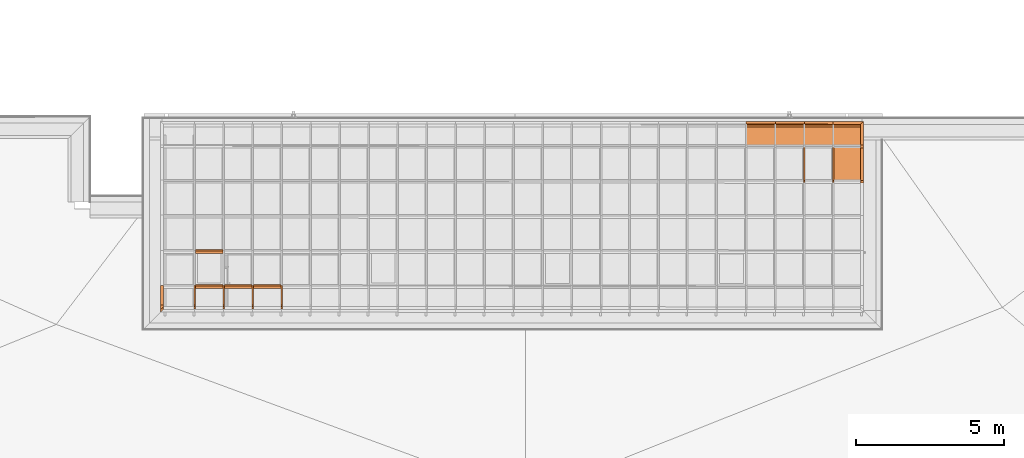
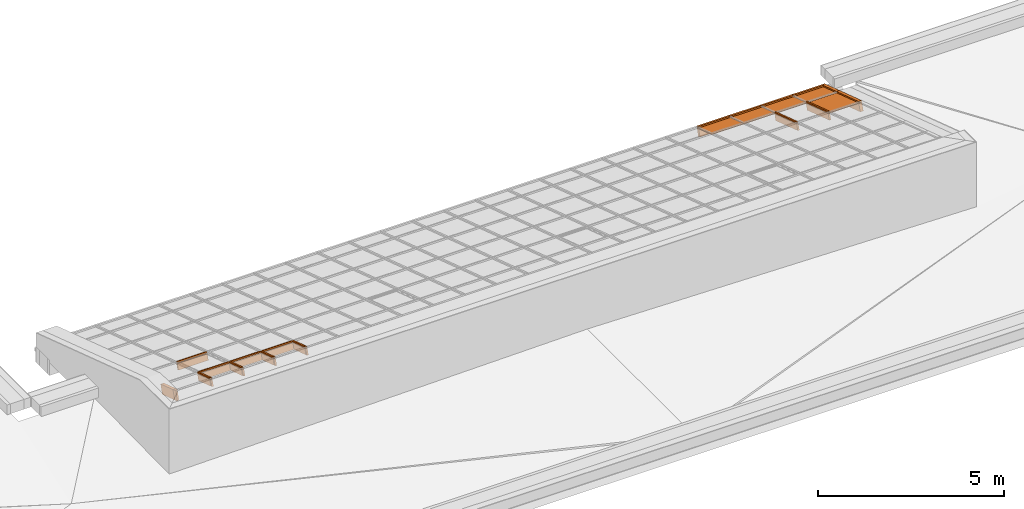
# One storey, part 40 of 47: 27 proxies, 1 element without a shape of its own.
"""IFC2X3 building model written with IfcOpenShell, lengths in millimetres."""

from ifc_helpers import new_model, entity, si_unit, converted_unit, derived_unit, money_unit, direction, frame, origin_with_axes, place, context, subcontext, project, spatial, polyline, outline, extrude, clip, halfspace, material, material_list, type_object, element, aggregate, save


model = new_model("IFC2X3")

# Units and contexts
model_context = context("Model", 3, precision=1e-05, world=origin_with_axes(), true_north=direction((0.0, 1.0)))
body_context = subcontext(model_context, "Body", "Model", "MODEL_VIEW")
ifc_project = project(units=[si_unit("LENGTHUNIT", "METRE", prefix="MILLI"), si_unit("AREAUNIT", "SQUARE_METRE"), si_unit("VOLUMEUNIT", "CUBIC_METRE"), converted_unit("PLANEANGLEUNIT", "DEGREE", entity("IfcPlaneAngleMeasure", 0.0174532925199), si_unit("PLANEANGLEUNIT", "RADIAN"), dimensions=[0, 0, 0, 0, 0, 0, 0]), si_unit("SOLIDANGLEUNIT", "STERADIAN"), money_unit("EUR"), converted_unit("TIMEUNIT", "Year", entity("IfcTimeMeasure", 31556926.0), si_unit("TIMEUNIT", "SECOND"), dimensions=[0, 0, 1, 0, 0, 0, 0]), si_unit("MASSUNIT", "GRAM", prefix="KILO"), si_unit("THERMODYNAMICTEMPERATUREUNIT", "DEGREE_CELSIUS"), si_unit("LUMINOUSINTENSITYUNIT", "LUMEN"), si_unit("ENERGYUNIT", "JOULE", prefix="MEGA"), derived_unit("THERMALCONDUCTANCEUNIT", [(si_unit("POWERUNIT", "WATT"), 1), (si_unit("LENGTHUNIT", "METRE"), -1), (si_unit("THERMODYNAMICTEMPERATUREUNIT", "KELVIN"), -1)]), derived_unit("SPECIFICHEATCAPACITYUNIT", [(si_unit("ENERGYUNIT", "JOULE"), 1), (si_unit("MASSUNIT", "GRAM", prefix="KILO"), -1), (si_unit("THERMODYNAMICTEMPERATUREUNIT", "KELVIN"), -1)]), derived_unit("MASSDENSITYUNIT", [(si_unit("MASSUNIT", "GRAM", prefix="KILO"), 1), (si_unit("VOLUMEUNIT", "CUBIC_METRE"), -1)])], contexts=[model_context])

# Site, building, storey
site_placement = place(None, origin_with_axes())
site = spatial("IfcSite", under=ifc_project, at=site_placement, Name="Site", CompositionType="ELEMENT")
building_placement = place(site_placement, origin_with_axes())
building = spatial("IfcBuilding", under=site, at=building_placement, Name="Building", CompositionType="ELEMENT")
storey_placement = place(building_placement, frame((0.0, 0.0, 6000.0), z_axis=(0.0, 0.0, 1.0), x_axis=(1.0, 0.0, 0.0)))
storey = spatial("IfcBuildingStorey", under=building, at=storey_placement, Name="KATUSEPLAAN", CompositionType="ELEMENT", Elevation=6000.0)

# Curtain wall, proxies
curtain_wall_type = type_object("IfcCurtainWallType", Name="KK-2", PredefinedType="NOTDEFINED")
curtain_wall_placement = place(storey_placement, frame((71638.1505463, 41358.6055567, 722.550081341), z_axis=(0.0, 0.0, 1.0), x_axis=(1.0, 0.0, 0.0)))
curtain_wall = element("IfcCurtainWall", 1, at=curtain_wall_placement, inside=storey, type_object=curtain_wall_type, Name="Talveaja klaaskatus")
ifc_material_1 = material(Name="Klaas")
building_element_proxy_type_1 = type_object("IfcBuildingElementProxyType", Name="Panel-Main-122", PredefinedType="NOTDEFINED")
proxy_1_placement = place(curtain_wall_placement, frame((14729.9937576, 5600.0494597, 125.33263095), z_axis=(0.0, 0.0, 1.0), x_axis=(-0.999995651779, 0.00294896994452, 0.0)))
proxy_1 = element("IfcBuildingElementProxy", 2, at=proxy_1_placement, type_object=building_element_proxy_type_1, material=ifc_material_1, Name="Klaas;  Objekti nimi: Built-in CW Panel", context=body_context, shape_type="SweptSolid", body=[
    extrude(outline(polyline([(486.870814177, -403.735102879), (486.884818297, -398.735116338), (491.884804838, -398.749135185), (494.111327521, 395.986769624), (489.111340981, 396.000773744), (489.055309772, 376.000857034), (-486.940849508, 378.735194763), (-486.884833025, 398.735126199), (-491.884804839, 398.749130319), (-494.111327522, -395.986774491), (-489.111340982, -396.000778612), (-489.125345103, -401.000765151), (486.870814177, -403.735102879)])), frame((0.0, -3.12191252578, 9.50019274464), z_axis=(0.0, 0.312191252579, -0.950019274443), x_axis=(1.0, 0.0, 0.0)), (0.0, 0.0, 1.0), 20.0000000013),
])
building_element_proxy_type_2 = type_object("IfcBuildingElementProxyType", Name="Panel-Main-115", PredefinedType="NOTDEFINED")
proxy_2_placement = place(curtain_wall_placement, frame((15704.4933446, 4628.4982206, 443.653871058), z_axis=(0.0, 0.0, 1.0), x_axis=(-0.999995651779, 0.0029489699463, 0.0)))
proxy_2 = element("IfcBuildingElementProxy", 3, at=proxy_2_placement, type_object=building_element_proxy_type_2, material=ifc_material_1, Name="Klaas;  Objekti nimi: Built-in CW Panel", context=body_context, shape_type="SweptSolid", body=[
    extrude(outline(polyline([(484.733112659, -631.360496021), (484.747111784, -626.360513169), (489.747075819, -626.37453111), (493.249058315, 623.62057977), (488.249094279, 623.634578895), (488.263093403, 628.634561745), (-484.733080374, 631.360496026), (-484.747098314, 626.360513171), (-464.747166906, 626.304479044), (-468.249130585, -623.690613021), (-488.249061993, -623.634578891), (-488.263079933, -628.634561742), (484.733112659, -631.360496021)])), frame((0.0, -3.12191252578, 9.50019274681), z_axis=(0.0, 0.312191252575, -0.950019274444), x_axis=(1.0, 0.0, 0.0)), (0.0, 0.0, 1.0), 20.0000000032),
])
building_element_proxy_type_3 = type_object("IfcBuildingElementProxyType", Name="Panel-Main-080", PredefinedType="NOTDEFINED")
proxy_3_placement = place(curtain_wall_placement, frame((15704.4933446, 5599.76937335, 124.480305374), z_axis=(0.0, 0.0, 1.0), x_axis=(-0.999995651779, 0.00294896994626, 0.0)))
proxy_3 = element("IfcBuildingElementProxy", 4, at=proxy_3_placement, type_object=building_element_proxy_type_3, material=ifc_material_1, Name="Klaas;  Objekti nimi: Built-in CW Panel", context=body_context, shape_type="SweptSolid", body=[
    extrude(outline(polyline([(485.370817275, -403.730903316), (485.38482508, -398.730920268), (490.384808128, -398.744928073), (492.611333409, 395.990975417), (487.611350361, 396.004983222), (487.555319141, 376.005065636), (-465.44092687, 378.67496205), (-467.611435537, -396.061009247), (-487.611353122, -396.004978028), (-487.625360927, -401.004975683), (485.370817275, -403.730903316)])), frame((0.0, -3.12191252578, 9.50019274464), z_axis=(0.0, 0.312191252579, -0.950019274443), x_axis=(1.0, 0.0, 0.0)), (0.0, 0.0, 1.0), 20.0000000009),
])
building_element_proxy_type_4 = type_object("IfcBuildingElementProxyType", Name="Panel-Main-147", PredefinedType="NOTDEFINED")
proxy_4_placement = place(curtain_wall_placement, frame((12769.4945884, 5600.61293768, 127.047340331), z_axis=(0.0, 0.0, 1.0), x_axis=(-0.999995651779, 0.00294896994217, 0.0)))
proxy_4 = element("IfcBuildingElementProxy", 5, at=proxy_4_placement, type_object=building_element_proxy_type_4, material=ifc_material_1, Name="Klaas;  Objekti nimi: Built-in CW Panel", context=body_context, shape_type="SweptSolid", body=[
    extrude(outline(polyline([(495.370776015, -403.758920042), (495.384796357, -398.758930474), (500.384770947, -398.772950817), (502.611294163, 395.962958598), (497.611319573, 395.976963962), (497.555283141, 375.977050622), (-495.440832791, 378.758995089), (-495.384796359, 398.758938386), (-500.38475597, 398.772943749), (-502.611294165, -395.962965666), (-497.611304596, -395.976971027), (-497.625324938, -400.976960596), (495.370776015, -403.758920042)])), frame((1.70530256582e-10, -3.1219125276, 9.50019274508), z_axis=(0.0, 0.312191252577, -0.950019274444), x_axis=(1.0, 0.0, 0.0)), (0.0, 0.0, 1.0), 20.0000000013),
])
building_element_proxy_type_5 = type_object("IfcBuildingElementProxyType", Name="Panel-Main-079", PredefinedType="NOTDEFINED")
proxy_5_placement = place(curtain_wall_placement, frame((13753.9941712, 5600.32997718, 126.186268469), z_axis=(0.0, 0.0, 1.0), x_axis=(-0.999995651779, 0.002948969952, 0.0)))
proxy_5 = element("IfcBuildingElementProxy", 6, at=proxy_5_placement, type_object=building_element_proxy_type_5, material=ifc_material_1, Name="Klaas;  Objekti nimi: Built-in CW Panel", context=body_context, shape_type="SweptSolid", body=[
    extrude(outline(polyline([(486.87081418, -403.735102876), (486.884818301, -398.735116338), (491.884804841, -398.749135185), (494.111327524, 395.986769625), (489.111340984, 396.000773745), (489.055309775, 376.000857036), (-486.940849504, 378.735194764), (-486.884833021, 398.735126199), (-491.884804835, 398.74913032), (-494.111327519, -395.986774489), (-489.111340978, -396.000778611), (-489.125345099, -401.000765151), (486.87081418, -403.735102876)])), frame((0.0, -3.12191252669, 9.50019274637), z_axis=(0.0, 0.312191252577, -0.950019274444), x_axis=(1.0, 0.0, 0.0)), (0.0, 0.0, 1.0), 20.0000000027),
])
ifc_material_2 = material(Name="Alumiinium (1)")
building_element_proxy_type_6 = type_object("IfcBuildingElementProxyType", Name="Frame-Bnd-632", PredefinedType="NOTDEFINED")
proxy_6_placement = place(curtain_wall_placement, frame((15217.9935507, 5977.41805556, 0.851013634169), z_axis=(0.999999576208, -0.000287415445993, -0.000874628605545), x_axis=(0.0, -0.950019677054, 0.312190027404)))
proxy_6 = element("IfcBuildingElementProxy", 7, at=proxy_6_placement, type_object=building_element_proxy_type_6, material=ifc_material_2, Name="Alumiinium (1);  Objekti nimi: Built-in Frame", context=body_context, shape_type="Clipping", body=[
    clip(extrude(outline(polyline([(22.1222942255, 3.25639344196), (50.6228833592, -6.10931096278), (125.548518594, 221.895402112), (30.5465548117, 253.114416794), (-63.1104892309, -31.8914745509), (31.8914745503, -63.1104892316), (44.379080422, -25.1097037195), (15.8784912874, -15.7439993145), (22.1222942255, 3.25639344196)])), frame((0.0, 0.0, -1.13686837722e-10), z_axis=(0.0, 0.0, 1.0), x_axis=(0.950019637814, 0.312190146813, 0.0)), (0.0, 0.0, 1.0), 1023.0), halfspace(frame((486.5, 0.0, 486.499999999), z_axis=(-0.707106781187, 0.0, -0.707106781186), x_axis=(0.0, 1.0, 0.0)), True)),
])
ifc_material_list = material_list([ifc_material_2, ifc_material_2])
building_element_proxy_type_7 = type_object("IfcBuildingElementProxyType", Name="Frame-Mll-238", PredefinedType="NOTDEFINED")
proxy_7_placement = place(curtain_wall_placement, frame((14241.9939644, 5222.68086385, 249.814248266), z_axis=(0.0, -0.950019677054, 0.312190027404), x_axis=(-0.999999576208, 0.000287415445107, 0.000874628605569)))
proxy_7 = element("IfcBuildingElementProxy", 8, at=proxy_7_placement, type_object=building_element_proxy_type_7, material=ifc_material_list, Name="Alumiinium (1);  Objekti nimi: Frame 22", context=body_context, shape_type="SweptSolid", body=[
    extrude(outline(polyline([(25.0091958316, 9.97697969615), (25.1841179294, 199.976899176), (-24.8158608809, 200.022931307), (-24.9907829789, 10.0230118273), (25.0091958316, 9.97697969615)])), frame((0.0, 0.0, -9.09494701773e-10), z_axis=(0.0, 0.0, 1.0), x_axis=(0.999999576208, 0.000920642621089, 0.0)), (0.0, 0.0, 1.0), 1250.0),
    extrude(outline(polyline([(-25.0091958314, -9.9769796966), (-25.0460215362, -49.9769627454), (24.9539572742, -50.0229948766), (24.990782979, -10.0230118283), (-25.0091958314, -9.9769796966)])), frame((0.0, 0.0, -9.09494701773e-10), z_axis=(0.0, 0.0, 1.0), x_axis=(0.999999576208, 0.000920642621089, 0.0)), (0.0, 0.0, 1.0), 1250.0),
])
building_element_proxy_type_8 = type_object("IfcBuildingElementProxyType", Name="Frame-Bnd-634", PredefinedType="NOTDEFINED")
proxy_8_placement = place(curtain_wall_placement, frame((16190.9931384, 5222.12069114, 248.109597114), z_axis=(0.0, -0.950019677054, 0.312190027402), x_axis=(-0.999999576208, 0.000287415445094, 0.000874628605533)))
proxy_8 = element("IfcBuildingElementProxy", 9, at=proxy_8_placement, type_object=building_element_proxy_type_8, material=ifc_material_2, Name="Alumiinium (1);  Objekti nimi: Built-in Frame", context=body_context, shape_type="SweptSolid", body=[
    extrude(outline(polyline([(20.0091979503, 9.9815829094), (50.0091852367, 9.95396363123), (50.2301394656, 249.953861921), (-49.7698181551, 250.045926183), (-50.0460109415, -49.9539466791), (49.9539466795, -50.046010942), (49.9907723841, -10.0460278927), (19.990785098, -10.018408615), (20.0091979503, 9.9815829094)])), frame((0.0, -4.54747350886e-10, -9.09494701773e-10), z_axis=(0.0, 0.0, 1.0), x_axis=(0.999999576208, 0.000920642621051, 0.0)), (0.0, 0.0, 1.0), 1250.00000001),
])
building_element_proxy_type_9 = type_object("IfcBuildingElementProxyType", Name="Frame-Mll-239", PredefinedType="NOTDEFINED")
proxy_9_placement = place(curtain_wall_placement, frame((15217.9935507, 5222.40034637, 248.960610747), z_axis=(0.0, -0.950019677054, 0.312190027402), x_axis=(-0.999999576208, 0.000287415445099, 0.000874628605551)))
proxy_9 = element("IfcBuildingElementProxy", 10, at=proxy_9_placement, type_object=building_element_proxy_type_9, material=ifc_material_list, Name="Alumiinium (1);  Objekti nimi: Frame 22", context=body_context, shape_type="SweptSolid", body=[
    extrude(outline(polyline([(25.0091958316, 9.97697969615), (25.1841179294, 199.976899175), (-24.8158608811, 200.022931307), (-24.990782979, 10.0230118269), (25.0091958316, 9.97697969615)])), frame((0.0, 0.0, -9.09494701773e-10), z_axis=(0.0, 0.0, 1.0), x_axis=(0.999999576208, 0.00092064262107, 0.0)), (0.0, 0.0, 1.0), 1250.00000001),
    extrude(outline(polyline([(-25.0091958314, -9.97697969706), (-25.0460215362, -49.9769627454), (24.9539572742, -50.0229948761), (24.990782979, -10.0230118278), (-25.0091958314, -9.97697969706)])), frame((0.0, 0.0, -9.09494701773e-10), z_axis=(0.0, 0.0, 1.0), x_axis=(0.999999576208, 0.00092064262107, 0.0)), (0.0, 0.0, 1.0), 1250.00000001),
])
building_element_proxy_type_10 = type_object("IfcBuildingElementProxyType", Name="Frame-Trs-517", PredefinedType="NOTDEFINED")
proxy_10_placement = place(curtain_wall_placement, frame((-5398.99771195, 478.227605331, 1827.94296573), z_axis=(0.999999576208, -0.000287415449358, -0.000874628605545), x_axis=(0.0, -0.950019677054, 0.312190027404)))
proxy_10 = element("IfcBuildingElementProxy", 11, at=proxy_10_placement, type_object=building_element_proxy_type_10, material=ifc_material_list, Name="Alumiinium (1);  Objekti nimi: Frame 22", context=body_context, shape_type="SweptSolid", body=[
    extrude(outline(polyline([(26.8723924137, 1.69544270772), (86.1885203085, 182.199173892), (38.6875384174, 197.808681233), (-20.6285894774, 17.3049500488), (26.8723924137, 1.69544270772)])), frame((0.0, 4.54747350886e-10, 24.9999999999), z_axis=(0.0, 0.0, 1.0), x_axis=(0.950019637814, 0.312190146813, 0.0)), (0.0, 0.0, 1.0), 930.0),
    extrude(outline(polyline([(-26.8723924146, -1.69544270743), (-39.3599982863, -39.6962282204), (8.1409836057, -55.3057355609), (20.6285894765, -17.3049500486), (-26.8723924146, -1.69544270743)])), frame((0.0, 4.54747350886e-10, 24.9999999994), z_axis=(0.0, 0.0, 1.0), x_axis=(0.950019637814, 0.312190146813, 0.0)), (0.0, 0.0, 1.0), 930.000000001),
])
building_element_proxy_type_11 = type_object("IfcBuildingElementProxyType", Name="Frame-Mll-869", PredefinedType="NOTDEFINED")
proxy_11_placement = place(curtain_wall_placement, frame((-6378.99729663, 478.509272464, 1828.80010176), z_axis=(0.0, -0.950019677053, 0.312190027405), x_axis=(-0.999999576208, 0.000287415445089, 0.000874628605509)))
proxy_11 = element("IfcBuildingElementProxy", 12, at=proxy_11_placement, type_object=building_element_proxy_type_11, material=ifc_material_list, Name="Alumiinium (1);  Objekti nimi: Frame 22", context=body_context, shape_type="SweptSolid", body=[
    extrude(outline(polyline([(25.0091958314, 9.97697969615), (25.1841179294, 199.976899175), (-24.8158608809, 200.022931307), (-24.990782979, 10.0230118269), (25.0091958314, 9.97697969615)])), frame((0.0, 0.0, 0.0), z_axis=(0.0, 0.0, 1.0), x_axis=(0.999999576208, 0.000920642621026, 0.0)), (0.0, 0.0, 1.0), 700.000000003),
    extrude(outline(polyline([(-25.0091958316, -9.97697969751), (-25.0460215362, -49.9769627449), (24.9539572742, -50.0229948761), (24.990782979, -10.0230118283), (-25.0091958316, -9.97697969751)])), frame((0.0, 0.0, 0.0), z_axis=(0.0, 0.0, 1.0), x_axis=(0.999999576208, 0.000920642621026, 0.0)), (0.0, 0.0, 1.0), 700.000000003),
])
building_element_proxy_type_12 = type_object("IfcBuildingElementProxyType", Name="Frame-Bnd-631", PredefinedType="NOTDEFINED")
proxy_12_placement = place(curtain_wall_placement, frame((14241.9939644, 5977.69857303, 1.7046511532), z_axis=(0.999999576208, -0.000287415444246, -0.000874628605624), x_axis=(0.0, -0.950019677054, 0.312190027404)))
proxy_12 = element("IfcBuildingElementProxy", 13, at=proxy_12_placement, type_object=building_element_proxy_type_12, material=ifc_material_2, Name="Alumiinium (1);  Objekti nimi: Built-in Frame", context=body_context, shape_type="SweptSolid", body=[
    extrude(outline(polyline([(22.1222942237, 3.25639344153), (50.6228833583, -6.10931096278), (125.548518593, 221.895402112), (30.5465548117, 253.114416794), (-63.1104892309, -31.8914745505), (31.8914745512, -63.1104892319), (44.3790804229, -25.109703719), (15.8784912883, -15.7439993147), (22.1222942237, 3.25639344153)])), frame((0.0, 0.0, -4.54747350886e-10), z_axis=(0.0, 0.0, 1.0), x_axis=(0.950019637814, 0.312190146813, 0.0)), (0.0, 0.0, 1.0), 976.000000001),
])
building_element_proxy_type_13 = type_object("IfcBuildingElementProxyType", Name="Frame-Bnd-633", PredefinedType="NOTDEFINED")
proxy_13_placement = place(curtain_wall_placement, frame((16190.9931384, 5977.13840033, 9.73443547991e-10), z_axis=(0.0, -0.950019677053, 0.312190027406), x_axis=(-0.999999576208, 0.000287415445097, 0.000874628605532)))
proxy_13 = element("IfcBuildingElementProxy", 14, at=proxy_13_placement, type_object=building_element_proxy_type_13, material=ifc_material_2, Name="Alumiinium (1);  Objekti nimi: Built-in Frame", context=body_context, shape_type="Clipping", body=[
    clip(extrude(outline(polyline([(20.0091979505, 9.98158290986), (50.0091852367, 9.95396363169), (50.2301394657, 249.953861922), (-49.769818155, 250.045926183), (-50.0460109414, -49.9539466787), (49.9539466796, -50.0460109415), (49.9907723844, -10.0460278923), (19.9907850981, -10.0184086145), (20.0091979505, 9.98158290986)])), frame((1.13686837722e-10, 4.54747350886e-10, -50.0000000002), z_axis=(0.0, 0.0, 1.0), x_axis=(0.999999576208, 0.000920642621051, 0.0)), (0.0, 0.0, 1.0), 844.739022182), halfspace(frame((-1.88609809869e-10, 0.0, 1.88609809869e-10), z_axis=(-0.707106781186, 0.0, 0.707106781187), x_axis=(0.0, -1.0, 0.0)), True)),
])
building_element_proxy_type_14 = type_object("IfcBuildingElementProxyType", Name="Frame-Trs-748", PredefinedType="NOTDEFINED")
proxy_14_placement = place(curtain_wall_placement, frame((-6378.99729663, 1666.03386878, 1438.56256751), z_axis=(0.999999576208, -0.000287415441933, -0.000874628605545), x_axis=(0.0, -0.950019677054, 0.312190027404)))
proxy_14 = element("IfcBuildingElementProxy", 15, at=proxy_14_placement, type_object=building_element_proxy_type_14, material=ifc_material_list, Name="Alumiinium (1);  Objekti nimi: Frame 22", context=body_context, shape_type="SweptSolid", body=[
    extrude(outline(polyline([(26.8723924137, 1.69544270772), (86.1885203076, 182.199173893), (38.6875384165, 197.808681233), (-20.6285894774, 17.3049500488), (26.8723924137, 1.69544270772)])), frame((0.0, 0.0, 25.0), z_axis=(0.0, 0.0, 1.0), x_axis=(0.950019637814, 0.312190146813, 0.0)), (0.0, 0.0, 1.0), 930.0),
    extrude(outline(polyline([(-26.8723924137, -1.69544270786), (-39.3599982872, -39.6962282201), (8.14098360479, -55.3057355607), (20.6285894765, -17.3049500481), (-26.8723924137, -1.69544270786)])), frame((0.0, 0.0, 24.9999999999), z_axis=(0.0, 0.0, 1.0), x_axis=(0.950019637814, 0.312190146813, 0.0)), (0.0, 0.0, 1.0), 930.0),
])
building_element_proxy_type_15 = type_object("IfcBuildingElementProxyType", Name="Frame-Bnd-630", PredefinedType="NOTDEFINED")
proxy_15_placement = place(curtain_wall_placement, frame((13265.994378, 5977.97909051, 2.55828867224), z_axis=(0.999999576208, -0.000287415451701, -0.000874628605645), x_axis=(0.0, -0.950019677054, 0.312190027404)))
proxy_15 = element("IfcBuildingElementProxy", 16, at=proxy_15_placement, type_object=building_element_proxy_type_15, material=ifc_material_2, Name="Alumiinium (1);  Objekti nimi: Built-in Frame", context=body_context, shape_type="SweptSolid", body=[
    extrude(outline(polyline([(22.1222942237, 3.25639344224), (50.6228833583, -6.10931096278), (125.548518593, 221.895402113), (30.5465548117, 253.114416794), (-63.1104892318, -31.8914745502), (31.8914745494, -63.1104892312), (44.379080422, -25.109703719), (15.8784912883, -15.7439993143), (22.1222942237, 3.25639344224)])), frame((0.0, 0.0, -9.09494701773e-10), z_axis=(0.0, 0.0, 1.0), x_axis=(0.950019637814, 0.312190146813, 0.0)), (0.0, 0.0, 1.0), 976.000000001),
])
building_element_proxy_type_16 = type_object("IfcBuildingElementProxyType", Name="Frame-Mll-872", PredefinedType="NOTDEFINED")
proxy_16_placement = place(curtain_wall_placement, frame((-3435.99854385, 477.663408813, 1826.22606977), z_axis=(0.0, -0.950019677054, 0.312190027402), x_axis=(-0.999999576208, 0.000287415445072, 0.000874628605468)))
proxy_16 = element("IfcBuildingElementProxy", 17, at=proxy_16_placement, type_object=building_element_proxy_type_16, material=ifc_material_list, Name="Alumiinium (1);  Objekti nimi: Frame 22", context=body_context, shape_type="SweptSolid", body=[
    extrude(outline(polyline([(25.0091958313, 9.9769796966), (25.1841179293, 199.976899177), (-24.8158608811, 200.022931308), (-24.990782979, 10.0230118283), (25.0091958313, 9.9769796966)])), frame((0.0, 4.54747350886e-10, 9.09494701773e-10), z_axis=(0.0, 0.0, 1.0), x_axis=(0.999999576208, 0.000920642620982, 0.0)), (0.0, 0.0, 1.0), 700.000000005),
    extrude(outline(polyline([(-25.0091958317, -9.97697969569), (-25.0460215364, -49.9769627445), (24.9539572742, -50.0229948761), (24.990782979, -10.0230118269), (-25.0091958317, -9.97697969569)])), frame((0.0, 0.0, 0.0), z_axis=(0.0, 0.0, 1.0), x_axis=(0.999999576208, 0.000920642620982, 0.0)), (0.0, 0.0, 1.0), 700.000000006),
])
building_element_proxy_type_17 = type_object("IfcBuildingElementProxyType", Name="Frame-Bnd-629", PredefinedType="NOTDEFINED")
proxy_17_placement = place(curtain_wall_placement, frame((12272.9947988, 5978.26449405, 3.4267948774), z_axis=(0.999999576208, -0.000287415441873, -0.000874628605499), x_axis=(0.0, -0.950019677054, 0.312190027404)))
proxy_17 = element("IfcBuildingElementProxy", 18, at=proxy_17_placement, type_object=building_element_proxy_type_17, material=ifc_material_2, Name="Alumiinium (1);  Objekti nimi: Built-in Frame", context=body_context, shape_type="SweptSolid", body=[
    extrude(outline(polyline([(22.1222942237, 3.25639344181), (50.6228833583, -6.10931096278), (125.548518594, 221.895402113), (30.5465548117, 253.114416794), (-63.1104892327, -31.8914745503), (31.8914745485, -63.1104892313), (44.3790804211, -25.1097037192), (15.8784912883, -15.7439993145), (22.1222942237, 3.25639344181)])), frame((0.0, 0.0, -6.8212102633e-10), z_axis=(0.0, 0.0, 1.0), x_axis=(0.950019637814, 0.312190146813, 0.0)), (0.0, 0.0, 1.0), 993.000000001),
])
building_element_proxy_type_18 = type_object("IfcBuildingElementProxyType", Name="Frame-Mll-870", PredefinedType="NOTDEFINED")
proxy_18_placement = place(curtain_wall_placement, frame((-5398.99771195, 478.227605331, 1827.94296573), z_axis=(0.0, -0.950019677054, 0.312190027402), x_axis=(-0.999999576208, 0.000287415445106, 0.00087462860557)))
proxy_18 = element("IfcBuildingElementProxy", 19, at=proxy_18_placement, type_object=building_element_proxy_type_18, material=ifc_material_list, Name="Alumiinium (1);  Objekti nimi: Frame 22", context=body_context, shape_type="SweptSolid", body=[
    extrude(outline(polyline([(25.0091958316, 9.97697969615), (25.1841179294, 199.976899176), (-24.8158608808, 200.022931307), (-24.9907829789, 10.0230118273), (25.0091958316, 9.97697969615)])), frame((0.0, 0.0, -2.72848410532e-09), z_axis=(0.0, 0.0, 1.0), x_axis=(0.999999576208, 0.00092064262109, 0.0)), (0.0, 0.0, 1.0), 700.000000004),
    extrude(outline(polyline([(-25.0091958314, -9.97697969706), (-25.0460215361, -49.9769627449), (24.9539572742, -50.0229948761), (24.9907829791, -10.0230118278), (-25.0091958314, -9.97697969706)])), frame((0.0, 0.0, -2.72848410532e-09), z_axis=(0.0, 0.0, 1.0), x_axis=(0.999999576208, 0.00092064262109, 0.0)), (0.0, 0.0, 1.0), 700.000000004),
])
building_element_proxy_type_19 = type_object("IfcBuildingElementProxyType", Name="Frame-Trs-516", PredefinedType="NOTDEFINED")
proxy_19_placement = place(curtain_wall_placement, frame((-6378.99729663, 478.509272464, 1828.80010176), z_axis=(0.999999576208, -0.000287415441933, -0.000874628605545), x_axis=(0.0, -0.950019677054, 0.312190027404)))
proxy_19 = element("IfcBuildingElementProxy", 20, at=proxy_19_placement, type_object=building_element_proxy_type_19, material=ifc_material_list, Name="Alumiinium (1);  Objekti nimi: Frame 22", context=body_context, shape_type="SweptSolid", body=[
    extrude(outline(polyline([(26.8723924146, 1.69544270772), (86.1885203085, 182.199173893), (38.6875384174, 197.808681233), (-20.6285894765, 17.304950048), (26.8723924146, 1.69544270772)])), frame((0.0, 0.0, 24.9999999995), z_axis=(0.0, 0.0, 1.0), x_axis=(0.950019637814, 0.312190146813, 0.0)), (0.0, 0.0, 1.0), 930.0),
    extrude(outline(polyline([(-26.8723924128, -1.69544270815), (-39.3599982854, -39.6962282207), (8.14098360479, -55.3057355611), (20.6285894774, -17.3049500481), (-26.8723924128, -1.69544270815)])), frame((0.0, 0.0, 24.9999999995), z_axis=(0.0, 0.0, 1.0), x_axis=(0.950019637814, 0.312190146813, 0.0)), (0.0, 0.0, 1.0), 930.0),
])
building_element_proxy_type_20 = type_object("IfcBuildingElementProxyType", Name="Frame-Trs-518", PredefinedType="NOTDEFINED")
proxy_20_placement = place(curtain_wall_placement, frame((-4418.99812727, 477.945938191, 1827.08582969), z_axis=(0.999999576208, -0.000287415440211, -0.000874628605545), x_axis=(0.0, -0.950019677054, 0.312190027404)))
proxy_20 = element("IfcBuildingElementProxy", 21, at=proxy_20_placement, type_object=building_element_proxy_type_20, material=ifc_material_list, Name="Alumiinium (1);  Objekti nimi: Frame 22", context=body_context, shape_type="SweptSolid", body=[
    extrude(outline(polyline([(26.8723924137, 1.69544270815), (86.1885203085, 182.199173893), (38.6875384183, 197.808681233), (-20.6285894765, 17.3049500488), (26.8723924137, 1.69544270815)])), frame((-9.09494701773e-10, -4.54747350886e-10, 24.9999999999), z_axis=(0.0, 0.0, 1.0), x_axis=(0.950019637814, 0.312190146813, 0.0)), (0.0, 0.0, 1.0), 933.0),
    extrude(outline(polyline([(-26.8723924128, -1.69544270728), (-39.3599982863, -39.6962282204), (8.14098360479, -55.3057355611), (20.6285894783, -17.3049500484), (-26.8723924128, -1.69544270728)])), frame((-9.09494701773e-10, -4.54747350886e-10, 24.9999999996), z_axis=(0.0, 0.0, 1.0), x_axis=(0.950019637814, 0.312190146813, 0.0)), (0.0, 0.0, 1.0), 933.000000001),
])
building_element_proxy_type_21 = type_object("IfcBuildingElementProxyType", Name="Frame-Mll-871", PredefinedType="NOTDEFINED")
proxy_21_placement = place(curtain_wall_placement, frame((-4418.99812727, 477.945938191, 1827.08582969), z_axis=(0.0, -0.950019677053, 0.312190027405), x_axis=(-0.999999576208, 0.000287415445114, 0.000874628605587)))
proxy_21 = element("IfcBuildingElementProxy", 22, at=proxy_21_placement, type_object=building_element_proxy_type_21, material=ifc_material_list, Name="Alumiinium (1);  Objekti nimi: Frame 22", context=body_context, shape_type="SweptSolid", body=[
    extrude(outline(polyline([(25.0091958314, 9.97697969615), (25.1841179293, 199.976899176), (-24.8158608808, 200.022931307), (-24.9907829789, 10.0230118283), (25.0091958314, 9.97697969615)])), frame((0.0, -4.54747350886e-10, -1.81898940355e-09), z_axis=(0.0, 0.0, 1.0), x_axis=(0.999999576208, 0.000920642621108, 0.0)), (0.0, 0.0, 1.0), 700.000000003),
    extrude(outline(polyline([(-25.0091958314, -9.97697969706), (-25.0460215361, -49.9769627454), (24.9539572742, -50.0229948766), (24.9907829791, -10.0230118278), (-25.0091958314, -9.97697969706)])), frame((0.0, -4.54747350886e-10, -1.81898940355e-09), z_axis=(0.0, 0.0, 1.0), x_axis=(0.999999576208, 0.000920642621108, 0.0)), (0.0, 0.0, 1.0), 700.000000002),
])
building_element_proxy_type_22 = type_object("IfcBuildingElementProxyType", Name="Frame-Mll-996", PredefinedType="NOTDEFINED")
proxy_22_placement = place(curtain_wall_placement, frame((-3435.99854385, -187.350365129, 2044.75908896), z_axis=(0.0, -0.950019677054, 0.312190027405), x_axis=(-0.999999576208, 0.000287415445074, 0.000874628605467)))
proxy_22 = element("IfcBuildingElementProxy", 23, at=proxy_22_placement, type_object=building_element_proxy_type_22, material=ifc_material_list, Name="Alumiinium (1);  Objekti nimi: Frame 22", context=body_context, shape_type="SweptSolid", body=[
    extrude(outline(polyline([(25.0091958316, 9.97697969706), (25.1841179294, 199.976899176), (-24.8158608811, 200.022931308), (-24.990782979, 10.0230118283), (25.0091958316, 9.97697969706)])), frame((0.0, 0.0, -1.81898940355e-09), z_axis=(0.0, 0.0, 1.0), x_axis=(0.999999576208, 0.000920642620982, 0.0)), (0.0, 0.0, 1.0), 55.2609778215),
    extrude(outline(polyline([(-25.0091958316, -9.97697969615), (-25.0460215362, -49.9769627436), (24.9539572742, -50.0229948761), (24.990782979, -10.0230118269), (-25.0091958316, -9.97697969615)])), frame((0.0, 0.0, -1.81898940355e-09), z_axis=(0.0, 0.0, 1.0), x_axis=(0.999999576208, 0.000920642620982, 0.0)), (0.0, 0.0, 1.0), 55.2609778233),
])
building_element_proxy_type_23 = type_object("IfcBuildingElementProxyType", Name="Frame-Mll-995", PredefinedType="NOTDEFINED")
proxy_23_placement = place(curtain_wall_placement, frame((-4418.99812727, -187.067835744, 2045.61884888), z_axis=(0.0, -0.950019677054, 0.312190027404), x_axis=(-0.999999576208, 0.000287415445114, 0.000874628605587)))
proxy_23 = element("IfcBuildingElementProxy", 24, at=proxy_23_placement, type_object=building_element_proxy_type_23, material=ifc_material_list, Name="Alumiinium (1);  Objekti nimi: Frame 22", context=body_context, shape_type="SweptSolid", body=[
    extrude(outline(polyline([(25.0091958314, 9.9769796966), (25.1841179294, 199.976899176), (-24.8158608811, 200.022931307), (-24.9907829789, 10.0230118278), (25.0091958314, 9.9769796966)])), frame((0.0, -4.54747350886e-10, -3.63797880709e-09), z_axis=(0.0, 0.0, 1.0), x_axis=(0.999999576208, 0.000920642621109, 0.0)), (0.0, 0.0, 1.0), 55.2609778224),
    extrude(outline(polyline([(-25.0091958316, -9.9769796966), (-25.0460215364, -49.9769627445), (24.9539572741, -50.0229948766), (24.990782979, -10.0230118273), (-25.0091958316, -9.9769796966)])), frame((0.0, -4.54747350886e-10, -3.63797880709e-09), z_axis=(0.0, 0.0, 1.0), x_axis=(0.999999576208, 0.000920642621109, 0.0)), (0.0, 0.0, 1.0), 55.2609778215),
])
building_element_proxy_type_24 = type_object("IfcBuildingElementProxyType", Name="Frame-Mll-994", PredefinedType="NOTDEFINED")
proxy_24_placement = place(curtain_wall_placement, frame((-5398.99771195, -186.786168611, 2046.47598491), z_axis=(0.0, -0.950019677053, 0.312190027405), x_axis=(-0.999999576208, 0.000287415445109, 0.000874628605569)))
proxy_24 = element("IfcBuildingElementProxy", 25, at=proxy_24_placement, type_object=building_element_proxy_type_24, material=ifc_material_list, Name="Alumiinium (1);  Objekti nimi: Frame 22", context=body_context, shape_type="SweptSolid", body=[
    extrude(outline(polyline([(25.0091958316, 9.97697969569), (25.1841179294, 199.976899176), (-24.8158608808, 200.022931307), (-24.9907829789, 10.0230118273), (25.0091958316, 9.97697969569)])), frame((0.0, 0.0, 0.0), z_axis=(0.0, 0.0, 1.0), x_axis=(0.999999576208, 0.00092064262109, 0.0)), (0.0, 0.0, 1.0), 55.2609778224),
    extrude(outline(polyline([(-25.0091958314, -9.97697969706), (-25.0460215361, -49.9769627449), (24.9539572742, -50.0229948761), (24.9907829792, -10.0230118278), (-25.0091958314, -9.97697969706)])), frame((0.0, 0.0, 0.0), z_axis=(0.0, 0.0, 1.0), x_axis=(0.999999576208, 0.00092064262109, 0.0)), (0.0, 0.0, 1.0), 55.2609778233),
])
building_element_proxy_type_25 = type_object("IfcBuildingElementProxyType", Name="Frame-Bnd-665", PredefinedType="NOTDEFINED")
proxy_25_placement = place(curtain_wall_placement, frame((-7484.75584326, 478.827084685, 1829.76723023), z_axis=(0.0, -0.950019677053, 0.312190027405), x_axis=(-0.999999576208, 0.000287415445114, 0.000874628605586)))
proxy_25 = element("IfcBuildingElementProxy", 26, at=proxy_25_placement, type_object=building_element_proxy_type_25, material=ifc_material_2, Name="Alumiinium (1);  Objekti nimi: Built-in Frame", context=body_context, shape_type="SweptSolid", body=[
    extrude(outline(polyline([(-19.990785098, 10.0184086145), (-20.0091979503, -9.98158290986), (-50.0091852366, -9.95396363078), (-50.0460109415, -49.9539466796), (49.9539466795, -50.0460109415), (50.2301394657, 249.953861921), (-49.7698181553, 250.045926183), (-49.9907723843, 10.0460278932), (-19.990785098, 10.0184086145)])), frame((0.0, -4.54747350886e-10, -3.63797880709e-09), z_axis=(0.0, 0.0, 1.0), x_axis=(0.999999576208, 0.000920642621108, 0.0)), (0.0, 0.0, 1.0), 700.000000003),
])
building_element_proxy_type_26 = type_object("IfcBuildingElementProxyType", Name="Frame-Bnd-664", PredefinedType="NOTDEFINED")
proxy_26_placement = place(curtain_wall_placement, frame((-7484.75584326, -186.18668925, 2048.30024941), z_axis=(0.0, -0.950019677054, 0.312190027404), x_axis=(-0.999999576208, 0.000287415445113, 0.000874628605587)))
proxy_26 = element("IfcBuildingElementProxy", 27, at=proxy_26_placement, type_object=building_element_proxy_type_26, material=ifc_material_2, Name="Alumiinium (1);  Objekti nimi: Built-in Frame", context=body_context, shape_type="Clipping", body=[
    clip(extrude(outline(polyline([(-19.9907850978, 10.018408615), (-20.0091979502, -9.98158290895), (-50.0091852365, -9.95396363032), (-50.0460109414, -49.9539466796), (49.9539466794, -50.0460109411), (50.2301394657, 249.953861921), (-49.7698181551, 250.045926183), (-49.9907723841, 10.0460278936), (-19.9907850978, 10.018408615)])), frame((0.0, 0.0, -1.81898940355e-09), z_axis=(0.0, 0.0, 1.0), x_axis=(0.999999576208, 0.000920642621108, 0.0)), (0.0, 0.0, 1.0), 155.260977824), halfspace(frame((-52.6304889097, 0.0, 52.6304889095), z_axis=(0.707106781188, 0.0, -0.707106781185), x_axis=(0.0, 1.0, 0.0)), True)),
])
building_element_proxy_type_27 = type_object("IfcBuildingElementProxyType", Name="Frame-Mll-993", PredefinedType="NOTDEFINED")
proxy_27_placement = place(curtain_wall_placement, frame((-6378.99729663, -186.50450147, 2047.33312094), z_axis=(0.0, -0.950019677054, 0.312190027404), x_axis=(-0.999999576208, 0.000287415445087, 0.000874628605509)))
proxy_27 = element("IfcBuildingElementProxy", 28, at=proxy_27_placement, type_object=building_element_proxy_type_27, material=ifc_material_list, Name="Alumiinium (1);  Objekti nimi: Frame 22", context=body_context, shape_type="SweptSolid", body=[
    extrude(outline(polyline([(25.0091958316, 9.97697969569), (25.1841179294, 199.976899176), (-24.8158608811, 200.022931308), (-24.990782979, 10.0230118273), (25.0091958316, 9.97697969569)])), frame((0.0, 0.0, 0.0), z_axis=(0.0, 0.0, 1.0), x_axis=(0.999999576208, 0.000920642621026, 0.0)), (0.0, 0.0, 1.0), 55.2609778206),
    extrude(outline(polyline([(-25.0091958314, -9.9769796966), (-25.0460215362, -49.9769627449), (24.9539572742, -50.0229948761), (24.990782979, -10.0230118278), (-25.0091958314, -9.9769796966)])), frame((0.0, 0.0, 0.0), z_axis=(0.0, 0.0, 1.0), x_axis=(0.999999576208, 0.000920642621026, 0.0)), (0.0, 0.0, 1.0), 55.2609778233),
])
aggregate(curtain_wall, [proxy_1, proxy_2, proxy_3, proxy_4, proxy_5, proxy_6, proxy_7, proxy_8, proxy_9, proxy_10, proxy_11, proxy_12, proxy_13, proxy_14, proxy_15, proxy_16, proxy_17, proxy_18, proxy_19, proxy_20, proxy_21, proxy_22, proxy_23, proxy_24, proxy_25, proxy_26, proxy_27])

save(model, "model.ifc")
